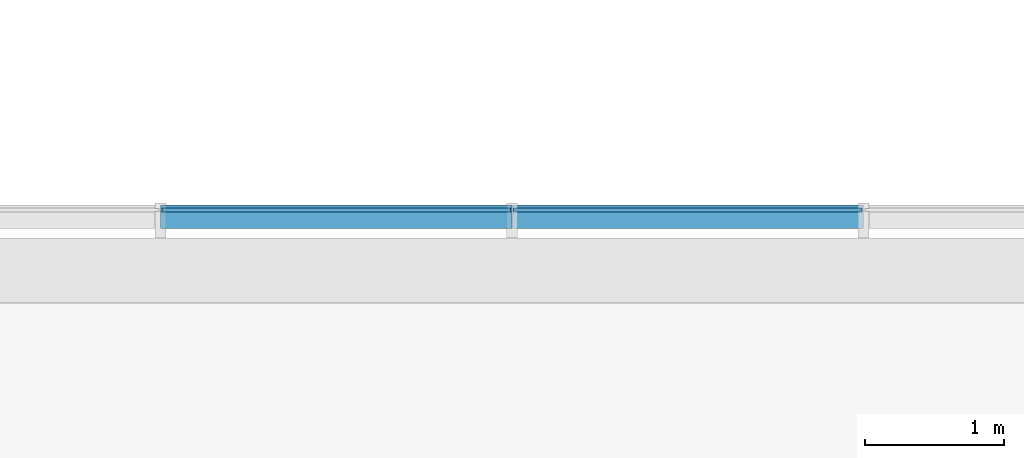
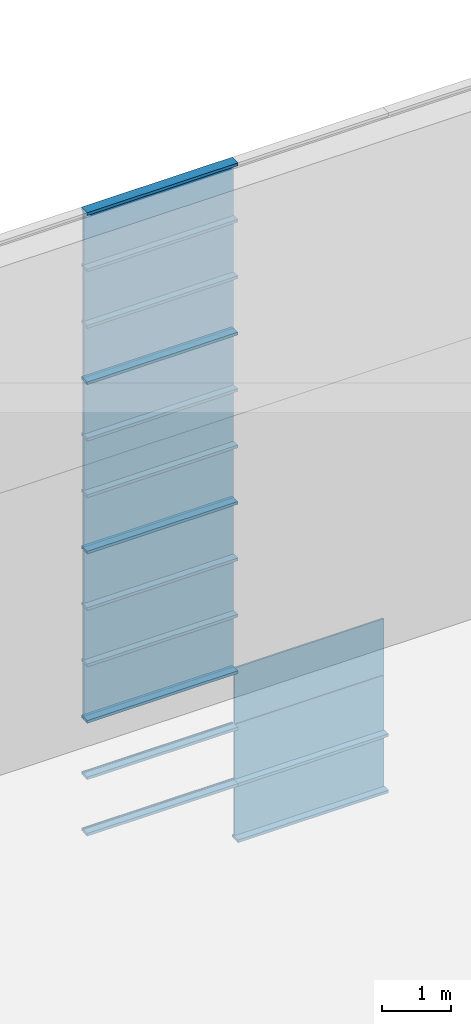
# One storey, part 62 of 105: 29 building element parts, 4 elements without a shape of their own.
"""IFC4 building model written with IfcOpenShell, lengths in millimetres."""

from ifc_helpers import new_model, entity, si_unit, converted_unit, derived_unit, direction, frame, origin_with_axes, place, context, subcontext, project, spatial, triangles, material, element, aggregate, save


model = new_model("IFC4")

# Units and contexts
model_context = context("Model", 3, precision=1e-05, world=origin_with_axes(), true_north=direction((0.0, 1.0)))
body_context = subcontext(model_context, "Body", "Model", "MODEL_VIEW")
ifc_project = project(units=[si_unit("LENGTHUNIT", "METRE", prefix="MILLI"), si_unit("AREAUNIT", "SQUARE_METRE"), si_unit("VOLUMEUNIT", "CUBIC_METRE"), converted_unit("PLANEANGLEUNIT", "DEGREE", entity("IfcLengthMeasure", 0.017453), si_unit("PLANEANGLEUNIT", "RADIAN"), dimensions=[0, 0, 0, 0, 0, 0, 0]), si_unit("SOLIDANGLEUNIT", "STERADIAN"), si_unit("MASSUNIT", "GRAM"), si_unit("TIMEUNIT", "SECOND"), si_unit("THERMODYNAMICTEMPERATUREUNIT", "DEGREE_CELSIUS"), si_unit("LUMINOUSINTENSITYUNIT", "LUMEN"), si_unit("POWERUNIT", "WATT"), derived_unit("THERMALTRANSMITTANCEUNIT", [(si_unit("POWERUNIT", "WATT"), 1), (si_unit("THERMODYNAMICTEMPERATUREUNIT", "KELVIN"), -1), (si_unit("AREAUNIT", "SQUARE_METRE"), -1)])], contexts=[model_context])

# Site, building, storey
site_placement = place(None, origin_with_axes())
site = spatial("IfcSite", under=ifc_project, at=site_placement, Name="Default Site", CompositionType="ELEMENT")
building_placement = place(site_placement, origin_with_axes())
building = spatial("IfcBuilding", under=site, at=building_placement, Name="Default Building", CompositionType="ELEMENT")
storey_placement = place(building_placement, origin_with_axes())
storey = spatial("IfcBuildingStorey", under=building, at=storey_placement, Name="OG - Story", CompositionType="ELEMENT", Elevation=0.0)

# Curtain wall, building element parts
curtain_wall_1_placement = place(storey_placement, origin_with_axes())
curtain_wall_1 = element("IfcCurtainWall", 1, at=curtain_wall_1_placement, inside=storey, Name="Fassade-004", PredefinedType="NOTDEFINED")
ifc_material_1 = material(Name="Normalglas")
building_element_part_1_placement = place(curtain_wall_1_placement, frame((33014.549222, -4389.262838, 0.0), z_axis=(0.0, 0.0, 1.0), x_axis=(1.0, 0.0, 0.0)))
building_element_part_1 = element("IfcBuildingElementPart", 2, at=building_element_part_1_placement, material=ifc_material_1, Name="Normalglas", PredefinedType="NOTDEFINED", context=body_context, shape_type="Tessellation", body=[
    triangles([(41674.211, -14.999, 995.0), (41674.211, 15.0, 995.0), (39167.895, 15.0, 995.0), (39167.895, -14.999, 995.0), (41674.211, -14.999, 5.0), (41674.211, 15.0, 5.0), (39167.895, 15.0, 5.0), (39167.895, -14.999, 5.0)], [[1, 2, 3], [1, 3, 4], [5, 6, 2], [5, 2, 1], [2, 6, 7], [2, 7, 3], [4, 3, 7], [4, 7, 8], [1, 4, 8], [1, 8, 5], [8, 7, 6], [8, 6, 5]], closed=False),
])
building_element_part_2_placement = place(curtain_wall_1_placement, frame((33014.549222, -4389.262838, 0.0), z_axis=(0.0, 0.0, 1.0), x_axis=(1.0, 0.0, 0.0)))
building_element_part_2 = element("IfcBuildingElementPart", 3, at=building_element_part_2_placement, material=ifc_material_1, Name="Normalglas", PredefinedType="NOTDEFINED", context=body_context, shape_type="Tessellation", body=[
    triangles([(41674.211, -14.999, 1995.0), (41674.211, 15.0, 1995.0), (39167.895, 15.0, 1995.0), (39167.895, -14.999, 1995.0), (41674.211, -14.999, 1005.0), (41674.211, 15.0, 1005.0), (39167.895, 15.0, 1005.0), (39167.895, -14.999, 1005.0)], [[1, 2, 3], [1, 3, 4], [5, 6, 2], [5, 2, 1], [2, 6, 7], [2, 7, 3], [4, 3, 7], [4, 7, 8], [1, 4, 8], [1, 8, 5], [8, 7, 6], [8, 6, 5]], closed=False),
])
building_element_part_3_placement = place(curtain_wall_1_placement, frame((33014.549222, -4389.262838, 0.0), z_axis=(0.0, 0.0, 1.0), x_axis=(1.0, 0.0, 0.0)))
building_element_part_3 = element("IfcBuildingElementPart", 4, at=building_element_part_3_placement, material=ifc_material_1, Name="Normalglas", PredefinedType="NOTDEFINED", context=body_context, shape_type="Tessellation", body=[
    triangles([(41674.211, -14.999, 2995.0), (41674.211, 15.0, 2995.0), (39167.895, 15.0, 2995.0), (39167.895, -14.999, 2995.0), (41674.211, -14.999, 2005.0), (41674.211, 15.0, 2005.0), (39167.895, 15.0, 2005.0), (39167.895, -14.999, 2005.0)], [[1, 2, 3], [1, 3, 4], [5, 6, 2], [5, 2, 1], [2, 6, 7], [2, 7, 3], [4, 3, 7], [4, 7, 8], [1, 4, 8], [1, 8, 5], [8, 7, 6], [8, 6, 5]], closed=False),
])
ifc_material_2 = material(Name="Blech")
building_element_part_4_placement = place(curtain_wall_1_placement, frame((33014.549222, -4389.262838, 0.0), z_axis=(0.0, 0.0, 1.0), x_axis=(1.0, 0.0, 0.0)))
building_element_part_4 = element("IfcBuildingElementPart", 5, at=building_element_part_4_placement, material=ifc_material_2, Name="Blech", PredefinedType="NOTDEFINED", context=body_context, shape_type="Tessellation", body=[
    triangles([(41684.211, 35.0, -24.999), (41684.211, 35.0, 25.0), (41684.211, 15.0, 25.0), (41684.211, 15.0, 5.0), (41684.211, -14.999, 5.0), (41684.211, -132.999, 25.0), (41684.211, -132.999, -24.999), (41684.211, -14.999, 25.0), (39157.895, -14.999, 5.0), (39157.895, -14.999, 25.0), (39157.895, -132.999, 25.0), (39157.895, -132.999, -24.999), (39157.895, 35.0, -24.999), (39157.895, 35.0, 25.0), (39157.895, 15.0, 25.0), (39157.895, 15.0, 5.0)], [[1, 2, 3], [1, 3, 4], [1, 4, 5], [1, 5, 6], [1, 6, 7], [8, 6, 5], [5, 9, 10], [5, 10, 8], [10, 11, 6], [10, 6, 8], [11, 12, 7], [11, 7, 6], [12, 13, 1], [12, 1, 7], [13, 14, 2], [13, 2, 1], [3, 2, 14], [3, 14, 15], [15, 16, 4], [15, 4, 3], [4, 16, 9], [4, 9, 5], [15, 16, 13], [13, 16, 9], [13, 9, 11], [11, 9, 10], [13, 11, 12], [15, 13, 14]], closed=False),
])
building_element_part_5_placement = place(curtain_wall_1_placement, frame((33014.549222, -4389.262838, 0.0), z_axis=(0.0, 0.0, 1.0), x_axis=(1.0, 0.0, 0.0)))
building_element_part_5 = element("IfcBuildingElementPart", 6, at=building_element_part_5_placement, material=ifc_material_2, Name="Blech", PredefinedType="NOTDEFINED", context=body_context, shape_type="Tessellation", body=[
    triangles([(39157.895, 35.0, 975.0), (39157.895, 15.0, 975.0), (39157.895, 35.0, 1025.0), (39157.895, 15.0, 995.0), (39157.895, 15.0, 1005.0), (39157.895, -14.999, 995.0), (39157.895, -14.999, 1005.0), (39157.895, -14.999, 1025.0), (39157.895, -14.999, 975.0), (39157.895, -132.999, 975.0), (39157.895, -132.999, 1025.0), (39157.895, 15.0, 1025.0), (36631.579, -14.999, 995.0), (36631.579, 15.0, 995.0), (36631.579, 15.0, 975.0), (36631.579, 35.0, 975.0), (36631.579, 35.0, 1025.0), (36631.579, 15.0, 1025.0), (36631.579, 15.0, 1005.0), (36631.579, -14.999, 1005.0), (36631.579, -14.999, 1025.0), (36631.579, -132.999, 1025.0), (36631.579, -132.999, 975.0), (36631.579, -14.999, 975.0)], [[1, 2, 3], [3, 2, 4], [3, 4, 5], [5, 4, 6], [5, 6, 7], [8, 9, 10], [8, 10, 11], [3, 5, 12], [6, 13, 14], [6, 14, 4], [4, 14, 15], [4, 15, 2], [15, 16, 1], [15, 1, 2], [1, 16, 17], [1, 17, 3], [18, 12, 3], [18, 3, 17], [12, 18, 19], [12, 19, 5], [7, 5, 19], [7, 19, 20], [8, 7, 20], [8, 20, 21], [8, 21, 22], [8, 22, 11], [11, 22, 23], [11, 23, 10], [9, 10, 23], [9, 23, 24], [9, 24, 13], [9, 13, 6], [17, 18, 16], [16, 18, 19], [16, 19, 14], [14, 19, 20], [14, 20, 13], [24, 21, 22], [24, 22, 23], [16, 14, 15]], closed=False),
])
building_element_part_6_placement = place(curtain_wall_1_placement, frame((33014.549222, -4389.262838, 0.0), z_axis=(0.0, 0.0, 1.0), x_axis=(1.0, 0.0, 0.0)))
building_element_part_6 = element("IfcBuildingElementPart", 7, at=building_element_part_6_placement, material=ifc_material_2, Name="Blech", PredefinedType="NOTDEFINED", context=body_context, shape_type="Tessellation", body=[
    triangles([(41684.211, 35.0, 975.0), (41684.211, 15.0, 975.0), (41684.211, 35.0, 1025.0), (41684.211, 15.0, 995.0), (41684.211, 15.0, 1005.0), (41684.211, -14.999, 995.0), (41684.211, -14.999, 1005.0), (41684.211, -14.999, 1025.0), (41684.211, -14.999, 975.0), (41684.211, -132.999, 975.0), (41684.211, -132.999, 1025.0), (41684.211, 15.0, 1025.0), (39157.895, -14.999, 995.0), (39157.895, 15.0, 995.0), (39157.895, 15.0, 975.0), (39157.895, 35.0, 975.0), (39157.895, 35.0, 1025.0), (39157.895, 15.0, 1025.0), (39157.895, 15.0, 1005.0), (39157.895, -14.999, 1005.0), (39157.895, -14.999, 1025.0), (39157.895, -132.999, 1025.0), (39157.895, -132.999, 975.0), (39157.895, -14.999, 975.0)], [[1, 2, 3], [3, 2, 4], [3, 4, 5], [5, 4, 6], [5, 6, 7], [8, 9, 10], [8, 10, 11], [3, 5, 12], [6, 13, 14], [6, 14, 4], [4, 14, 15], [4, 15, 2], [15, 16, 1], [15, 1, 2], [1, 16, 17], [1, 17, 3], [18, 12, 3], [18, 3, 17], [12, 18, 19], [12, 19, 5], [7, 5, 19], [7, 19, 20], [8, 7, 20], [8, 20, 21], [8, 21, 22], [8, 22, 11], [11, 22, 23], [11, 23, 10], [9, 10, 23], [9, 23, 24], [9, 24, 13], [9, 13, 6], [17, 18, 16], [16, 18, 19], [16, 19, 14], [14, 19, 20], [14, 20, 13], [24, 21, 22], [24, 22, 23], [16, 14, 15]], closed=False),
])
building_element_part_7_placement = place(curtain_wall_1_placement, frame((33014.549222, -4389.262838, 0.0), z_axis=(0.0, 0.0, 1.0), x_axis=(1.0, 0.0, 0.0)))
building_element_part_7 = element("IfcBuildingElementPart", 8, at=building_element_part_7_placement, material=ifc_material_2, Name="Blech", PredefinedType="NOTDEFINED", context=body_context, shape_type="Tessellation", body=[
    triangles([(39157.895, 35.0, 1975.0), (39157.895, 15.0, 1975.0), (39157.895, 35.0, 2025.0), (39157.895, 15.0, 1995.0), (39157.895, 15.0, 2005.0), (39157.895, -14.999, 1995.0), (39157.895, -14.999, 2005.0), (39157.895, -14.999, 2025.0), (39157.895, -14.999, 1975.0), (39157.895, -132.999, 1975.0), (39157.895, -132.999, 2025.0), (39157.895, 15.0, 2025.0), (36631.579, -14.999, 1995.0), (36631.579, 15.0, 1995.0), (36631.579, 15.0, 1975.0), (36631.579, 35.0, 1975.0), (36631.579, 35.0, 2025.0), (36631.579, 15.0, 2025.0), (36631.579, 15.0, 2005.0), (36631.579, -14.999, 2005.0), (36631.579, -14.999, 2025.0), (36631.579, -132.999, 2025.0), (36631.579, -132.999, 1975.0), (36631.579, -14.999, 1975.0)], [[1, 2, 3], [3, 2, 4], [3, 4, 5], [5, 4, 6], [5, 6, 7], [8, 9, 10], [8, 10, 11], [3, 5, 12], [6, 13, 14], [6, 14, 4], [4, 14, 15], [4, 15, 2], [15, 16, 1], [15, 1, 2], [1, 16, 17], [1, 17, 3], [18, 12, 3], [18, 3, 17], [12, 18, 19], [12, 19, 5], [7, 5, 19], [7, 19, 20], [8, 7, 20], [8, 20, 21], [8, 21, 22], [8, 22, 11], [11, 22, 23], [11, 23, 10], [9, 10, 23], [9, 23, 24], [9, 24, 13], [9, 13, 6], [17, 18, 16], [16, 18, 19], [16, 19, 14], [14, 19, 20], [14, 20, 13], [24, 21, 22], [24, 22, 23], [16, 14, 15]], closed=False),
])
building_element_part_8_placement = place(curtain_wall_1_placement, frame((33014.549222, -4389.262838, 0.0), z_axis=(0.0, 0.0, 1.0), x_axis=(1.0, 0.0, 0.0)))
building_element_part_8 = element("IfcBuildingElementPart", 9, at=building_element_part_8_placement, material=ifc_material_2, Name="Blech", PredefinedType="NOTDEFINED", context=body_context, shape_type="Tessellation", body=[
    triangles([(39157.895, 15.0, 2975.0), (39157.895, 15.0, 2995.0), (39157.895, 35.0, 3025.0), (39157.895, -14.999, 2995.0), (39157.895, -132.999, 2975.0), (39157.895, -14.999, 2975.0), (39157.895, -132.999, 3025.0), (39157.895, 35.0, 2975.0), (36631.579, -14.999, 2995.0), (36631.579, 15.0, 2995.0), (36631.579, 15.0, 2975.0), (36631.579, 35.0, 2975.0), (36631.579, 35.0, 3025.0), (36631.579, -132.999, 3025.0), (36631.579, -132.999, 2975.0), (36631.579, -14.999, 2975.0)], [[1, 2, 3], [3, 2, 4], [3, 4, 5], [5, 4, 6], [3, 5, 7], [1, 3, 8], [2, 4, 9], [2, 9, 10], [11, 1, 2], [11, 2, 10], [1, 11, 12], [1, 12, 8], [13, 3, 8], [13, 8, 12], [14, 7, 3], [14, 3, 13], [15, 5, 7], [15, 7, 14], [16, 6, 5], [16, 5, 15], [4, 6, 16], [4, 16, 9], [13, 12, 11], [13, 11, 10], [13, 10, 9], [13, 9, 15], [13, 15, 14], [16, 15, 9]], closed=False),
])
aggregate(curtain_wall_1, [building_element_part_1, building_element_part_2, building_element_part_3, building_element_part_4, building_element_part_5, building_element_part_6, building_element_part_7, building_element_part_8])

curtain_wall_2_placement = place(storey_placement, origin_with_axes())
curtain_wall_2 = element("IfcCurtainWall", 10, at=curtain_wall_2_placement, inside=storey, Name="Fassade-004", PredefinedType="NOTDEFINED")
building_element_part_9_placement = place(curtain_wall_2_placement, frame((33014.549222, -4389.262838, 3000.0), z_axis=(0.0, 0.0, 1.0), x_axis=(1.0, 0.0, 0.0)))
building_element_part_9 = element("IfcBuildingElementPart", 11, at=building_element_part_9_placement, material=ifc_material_1, Name="Normalglas", PredefinedType="NOTDEFINED", context=body_context, shape_type="Tessellation", body=[
    triangles([(39147.895, -14.999, 995.0), (39147.895, 15.0, 995.0), (36641.579, 15.0, 995.0), (36641.579, -14.999, 995.0), (39147.895, -14.999, 5.0), (39147.895, 15.0, 5.0), (36641.579, 15.0, 5.0), (36641.579, -14.999, 5.0)], [[1, 2, 3], [1, 3, 4], [5, 6, 2], [5, 2, 1], [2, 6, 7], [2, 7, 3], [4, 3, 7], [4, 7, 8], [1, 4, 8], [1, 8, 5], [8, 7, 6], [8, 6, 5]], closed=False),
])
building_element_part_10_placement = place(curtain_wall_2_placement, frame((33014.549222, -4389.262838, 3000.0), z_axis=(0.0, 0.0, 1.0), x_axis=(1.0, 0.0, 0.0)))
building_element_part_10 = element("IfcBuildingElementPart", 12, at=building_element_part_10_placement, material=ifc_material_1, Name="Normalglas", PredefinedType="NOTDEFINED", context=body_context, shape_type="Tessellation", body=[
    triangles([(39147.895, -14.999, 1995.0), (39147.895, 15.0, 1995.0), (36641.579, 15.0, 1995.0), (36641.579, -14.999, 1995.0), (39147.895, -14.999, 1005.0), (39147.895, 15.0, 1005.0), (36641.579, 15.0, 1005.0), (36641.579, -14.999, 1005.0)], [[1, 2, 3], [1, 3, 4], [5, 6, 2], [5, 2, 1], [2, 6, 7], [2, 7, 3], [4, 3, 7], [4, 7, 8], [1, 4, 8], [1, 8, 5], [8, 7, 6], [8, 6, 5]], closed=False),
])
building_element_part_11_placement = place(curtain_wall_2_placement, frame((33014.549222, -4389.262838, 3000.0), z_axis=(0.0, 0.0, 1.0), x_axis=(1.0, 0.0, 0.0)))
building_element_part_11 = element("IfcBuildingElementPart", 13, at=building_element_part_11_placement, material=ifc_material_1, Name="Normalglas", PredefinedType="NOTDEFINED", context=body_context, shape_type="Tessellation", body=[
    triangles([(39147.895, -14.999, 2995.0), (39147.895, 15.0, 2995.0), (36641.579, 15.0, 2995.0), (36641.579, -14.999, 2995.0), (39147.895, -14.999, 2005.0), (39147.895, 15.0, 2005.0), (36641.579, 15.0, 2005.0), (36641.579, -14.999, 2005.0)], [[1, 2, 3], [1, 3, 4], [5, 6, 2], [5, 2, 1], [2, 6, 7], [2, 7, 3], [4, 3, 7], [4, 7, 8], [1, 4, 8], [1, 8, 5], [8, 7, 6], [8, 6, 5]], closed=False),
])
building_element_part_12_placement = place(curtain_wall_2_placement, frame((33014.549222, -4389.262838, 3000.0), z_axis=(0.0, 0.0, 1.0), x_axis=(1.0, 0.0, 0.0)))
building_element_part_12 = element("IfcBuildingElementPart", 14, at=building_element_part_12_placement, material=ifc_material_2, Name="Blech", PredefinedType="NOTDEFINED", context=body_context, shape_type="Tessellation", body=[
    triangles([(39157.895, 35.0, -24.999), (39157.895, 35.0, 25.0), (39157.895, 15.0, 25.0), (39157.895, 15.0, 5.0), (39157.895, -14.999, 5.0), (39157.895, -132.999, 25.0), (39157.895, -132.999, -24.999), (39157.895, -14.999, 25.0), (36631.579, -14.999, 5.0), (36631.579, -14.999, 25.0), (36631.579, -132.999, 25.0), (36631.579, -132.999, -24.999), (36631.579, 35.0, -24.999), (36631.579, 35.0, 25.0), (36631.579, 15.0, 25.0), (36631.579, 15.0, 5.0)], [[1, 2, 3], [1, 3, 4], [1, 4, 5], [1, 5, 6], [1, 6, 7], [8, 6, 5], [5, 9, 10], [5, 10, 8], [10, 11, 6], [10, 6, 8], [11, 12, 7], [11, 7, 6], [12, 13, 1], [12, 1, 7], [13, 14, 2], [13, 2, 1], [3, 2, 14], [3, 14, 15], [15, 16, 4], [15, 4, 3], [4, 16, 9], [4, 9, 5], [15, 16, 13], [13, 16, 9], [13, 9, 11], [11, 9, 10], [13, 11, 12], [15, 13, 14]], closed=False),
])
building_element_part_13_placement = place(curtain_wall_2_placement, frame((33014.549222, -4389.262838, 3000.0), z_axis=(0.0, 0.0, 1.0), x_axis=(1.0, 0.0, 0.0)))
building_element_part_13 = element("IfcBuildingElementPart", 15, at=building_element_part_13_placement, material=ifc_material_2, Name="Blech", PredefinedType="NOTDEFINED", context=body_context, shape_type="Tessellation", body=[
    triangles([(39157.895, 35.0, 975.0), (39157.895, 15.0, 975.0), (39157.895, 35.0, 1025.0), (39157.895, 15.0, 995.0), (39157.895, 15.0, 1005.0), (39157.895, -14.999, 995.0), (39157.895, -14.999, 1005.0), (39157.895, -14.999, 1025.0), (39157.895, -14.999, 975.0), (39157.895, -132.999, 975.0), (39157.895, -132.999, 1025.0), (39157.895, 15.0, 1025.0), (36631.579, -14.999, 995.0), (36631.579, 15.0, 995.0), (36631.579, 15.0, 975.0), (36631.579, 35.0, 975.0), (36631.579, 35.0, 1025.0), (36631.579, 15.0, 1025.0), (36631.579, 15.0, 1005.0), (36631.579, -14.999, 1005.0), (36631.579, -14.999, 1025.0), (36631.579, -132.999, 1025.0), (36631.579, -132.999, 975.0), (36631.579, -14.999, 975.0)], [[1, 2, 3], [3, 2, 4], [3, 4, 5], [5, 4, 6], [5, 6, 7], [8, 9, 10], [8, 10, 11], [3, 5, 12], [6, 13, 14], [6, 14, 4], [4, 14, 15], [4, 15, 2], [15, 16, 1], [15, 1, 2], [1, 16, 17], [1, 17, 3], [18, 12, 3], [18, 3, 17], [12, 18, 19], [12, 19, 5], [7, 5, 19], [7, 19, 20], [8, 7, 20], [8, 20, 21], [8, 21, 22], [8, 22, 11], [11, 22, 23], [11, 23, 10], [9, 10, 23], [9, 23, 24], [9, 24, 13], [9, 13, 6], [17, 18, 16], [16, 18, 19], [16, 19, 14], [14, 19, 20], [14, 20, 13], [24, 21, 22], [24, 22, 23], [16, 14, 15]], closed=False),
])
building_element_part_14_placement = place(curtain_wall_2_placement, frame((33014.549222, -4389.262838, 3000.0), z_axis=(0.0, 0.0, 1.0), x_axis=(1.0, 0.0, 0.0)))
building_element_part_14 = element("IfcBuildingElementPart", 16, at=building_element_part_14_placement, material=ifc_material_2, Name="Blech", PredefinedType="NOTDEFINED", context=body_context, shape_type="Tessellation", body=[
    triangles([(39157.895, 35.0, 1975.0), (39157.895, 15.0, 1975.0), (39157.895, 35.0, 2025.0), (39157.895, 15.0, 1995.0), (39157.895, 15.0, 2005.0), (39157.895, -14.999, 1995.0), (39157.895, -14.999, 2005.0), (39157.895, -14.999, 2025.0), (39157.895, -14.999, 1975.0), (39157.895, -132.999, 1975.0), (39157.895, -132.999, 2025.0), (39157.895, 15.0, 2025.0), (36631.579, -14.999, 1995.0), (36631.579, 15.0, 1995.0), (36631.579, 15.0, 1975.0), (36631.579, 35.0, 1975.0), (36631.579, 35.0, 2025.0), (36631.579, 15.0, 2025.0), (36631.579, 15.0, 2005.0), (36631.579, -14.999, 2005.0), (36631.579, -14.999, 2025.0), (36631.579, -132.999, 2025.0), (36631.579, -132.999, 1975.0), (36631.579, -14.999, 1975.0)], [[1, 2, 3], [3, 2, 4], [3, 4, 5], [5, 4, 6], [5, 6, 7], [8, 9, 10], [8, 10, 11], [3, 5, 12], [6, 13, 14], [6, 14, 4], [4, 14, 15], [4, 15, 2], [15, 16, 1], [15, 1, 2], [1, 16, 17], [1, 17, 3], [18, 12, 3], [18, 3, 17], [12, 18, 19], [12, 19, 5], [7, 5, 19], [7, 19, 20], [8, 7, 20], [8, 20, 21], [8, 21, 22], [8, 22, 11], [11, 22, 23], [11, 23, 10], [9, 10, 23], [9, 23, 24], [9, 24, 13], [9, 13, 6], [17, 18, 16], [16, 18, 19], [16, 19, 14], [14, 19, 20], [14, 20, 13], [24, 21, 22], [24, 22, 23], [16, 14, 15]], closed=False),
])
building_element_part_15_placement = place(curtain_wall_2_placement, frame((33014.549222, -4389.262838, 3000.0), z_axis=(0.0, 0.0, 1.0), x_axis=(1.0, 0.0, 0.0)))
building_element_part_15 = element("IfcBuildingElementPart", 17, at=building_element_part_15_placement, material=ifc_material_2, Name="Blech", PredefinedType="NOTDEFINED", context=body_context, shape_type="Tessellation", body=[
    triangles([(39157.895, 15.0, 2975.0), (39157.895, 15.0, 2995.0), (39157.895, 35.0, 3025.0), (39157.895, -14.999, 2995.0), (39157.895, -132.999, 2975.0), (39157.895, -14.999, 2975.0), (39157.895, -132.999, 3025.0), (39157.895, 35.0, 2975.0), (36631.579, -14.999, 2995.0), (36631.579, 15.0, 2995.0), (36631.579, 15.0, 2975.0), (36631.579, 35.0, 2975.0), (36631.579, 35.0, 3025.0), (36631.579, -132.999, 3025.0), (36631.579, -132.999, 2975.0), (36631.579, -14.999, 2975.0)], [[1, 2, 3], [3, 2, 4], [3, 4, 5], [5, 4, 6], [3, 5, 7], [1, 3, 8], [2, 4, 9], [2, 9, 10], [11, 1, 2], [11, 2, 10], [1, 11, 12], [1, 12, 8], [13, 3, 8], [13, 8, 12], [14, 7, 3], [14, 3, 13], [15, 5, 7], [15, 7, 14], [16, 6, 5], [16, 5, 15], [4, 6, 16], [4, 16, 9], [13, 12, 11], [13, 11, 10], [13, 10, 9], [13, 9, 15], [13, 15, 14], [16, 15, 9]], closed=False),
])
aggregate(curtain_wall_2, [building_element_part_9, building_element_part_10, building_element_part_11, building_element_part_12, building_element_part_13, building_element_part_14, building_element_part_15])

curtain_wall_3_placement = place(storey_placement, origin_with_axes())
curtain_wall_3 = element("IfcCurtainWall", 18, at=curtain_wall_3_placement, inside=storey, Name="Fassade-004", PredefinedType="NOTDEFINED")
building_element_part_16_placement = place(curtain_wall_3_placement, frame((33014.549222, -4389.262838, 6000.0), z_axis=(0.0, 0.0, 1.0), x_axis=(1.0, 0.0, 0.0)))
building_element_part_16 = element("IfcBuildingElementPart", 19, at=building_element_part_16_placement, material=ifc_material_1, Name="Normalglas", PredefinedType="NOTDEFINED", context=body_context, shape_type="Tessellation", body=[
    triangles([(39147.895, -14.999, 995.0), (39147.895, 15.0, 995.0), (36641.579, 15.0, 995.0), (36641.579, -14.999, 995.0), (39147.895, -14.999, 5.0), (39147.895, 15.0, 5.0), (36641.579, 15.0, 5.0), (36641.579, -14.999, 5.0)], [[1, 2, 3], [1, 3, 4], [5, 6, 2], [5, 2, 1], [2, 6, 7], [2, 7, 3], [4, 3, 7], [4, 7, 8], [1, 4, 8], [1, 8, 5], [8, 7, 6], [8, 6, 5]], closed=False),
])
building_element_part_17_placement = place(curtain_wall_3_placement, frame((33014.549222, -4389.262838, 6000.0), z_axis=(0.0, 0.0, 1.0), x_axis=(1.0, 0.0, 0.0)))
building_element_part_17 = element("IfcBuildingElementPart", 20, at=building_element_part_17_placement, material=ifc_material_1, Name="Normalglas", PredefinedType="NOTDEFINED", context=body_context, shape_type="Tessellation", body=[
    triangles([(39147.895, -14.999, 1995.0), (39147.895, 15.0, 1995.0), (36641.579, 15.0, 1995.0), (36641.579, -14.999, 1995.0), (39147.895, -14.999, 1005.0), (39147.895, 15.0, 1005.0), (36641.579, 15.0, 1005.0), (36641.579, -14.999, 1005.0)], [[1, 2, 3], [1, 3, 4], [5, 6, 2], [5, 2, 1], [2, 6, 7], [2, 7, 3], [4, 3, 7], [4, 7, 8], [1, 4, 8], [1, 8, 5], [8, 7, 6], [8, 6, 5]], closed=False),
])
building_element_part_18_placement = place(curtain_wall_3_placement, frame((33014.549222, -4389.262838, 6000.0), z_axis=(0.0, 0.0, 1.0), x_axis=(1.0, 0.0, 0.0)))
building_element_part_18 = element("IfcBuildingElementPart", 21, at=building_element_part_18_placement, material=ifc_material_1, Name="Normalglas", PredefinedType="NOTDEFINED", context=body_context, shape_type="Tessellation", body=[
    triangles([(39147.895, -14.999, 2995.0), (39147.895, 15.0, 2995.0), (36641.579, 15.0, 2995.0), (36641.579, -14.999, 2995.0), (39147.895, -14.999, 2005.0), (39147.895, 15.0, 2005.0), (36641.579, 15.0, 2005.0), (36641.579, -14.999, 2005.0)], [[1, 2, 3], [1, 3, 4], [5, 6, 2], [5, 2, 1], [2, 6, 7], [2, 7, 3], [4, 3, 7], [4, 7, 8], [1, 4, 8], [1, 8, 5], [8, 7, 6], [8, 6, 5]], closed=False),
])
building_element_part_19_placement = place(curtain_wall_3_placement, frame((33014.549222, -4389.262838, 6000.0), z_axis=(0.0, 0.0, 1.0), x_axis=(1.0, 0.0, 0.0)))
building_element_part_19 = element("IfcBuildingElementPart", 22, at=building_element_part_19_placement, material=ifc_material_2, Name="Blech", PredefinedType="NOTDEFINED", context=body_context, shape_type="Tessellation", body=[
    triangles([(39157.895, 35.0, -24.999), (39157.895, 35.0, 25.0), (39157.895, 15.0, 25.0), (39157.895, 15.0, 5.0), (39157.895, -14.999, 5.0), (39157.895, -132.999, 25.0), (39157.895, -132.999, -24.999), (39157.895, -14.999, 25.0), (36631.579, -14.999, 5.0), (36631.579, -14.999, 25.0), (36631.579, -132.999, 25.0), (36631.579, -132.999, -24.999), (36631.579, 35.0, -24.999), (36631.579, 35.0, 25.0), (36631.579, 15.0, 25.0), (36631.579, 15.0, 5.0)], [[1, 2, 3], [1, 3, 4], [1, 4, 5], [1, 5, 6], [1, 6, 7], [8, 6, 5], [5, 9, 10], [5, 10, 8], [10, 11, 6], [10, 6, 8], [11, 12, 7], [11, 7, 6], [12, 13, 1], [12, 1, 7], [13, 14, 2], [13, 2, 1], [3, 2, 14], [3, 14, 15], [15, 16, 4], [15, 4, 3], [4, 16, 9], [4, 9, 5], [15, 16, 13], [13, 16, 9], [13, 9, 11], [11, 9, 10], [13, 11, 12], [15, 13, 14]], closed=False),
])
building_element_part_20_placement = place(curtain_wall_3_placement, frame((33014.549222, -4389.262838, 6000.0), z_axis=(0.0, 0.0, 1.0), x_axis=(1.0, 0.0, 0.0)))
building_element_part_20 = element("IfcBuildingElementPart", 23, at=building_element_part_20_placement, material=ifc_material_2, Name="Blech", PredefinedType="NOTDEFINED", context=body_context, shape_type="Tessellation", body=[
    triangles([(39157.895, 35.0, 975.0), (39157.895, 15.0, 975.0), (39157.895, 35.0, 1025.0), (39157.895, 15.0, 995.0), (39157.895, 15.0, 1005.0), (39157.895, -14.999, 995.0), (39157.895, -14.999, 1005.0), (39157.895, -14.999, 1025.0), (39157.895, -14.999, 975.0), (39157.895, -132.999, 975.0), (39157.895, -132.999, 1025.0), (39157.895, 15.0, 1025.0), (36631.579, -14.999, 995.0), (36631.579, 15.0, 995.0), (36631.579, 15.0, 975.0), (36631.579, 35.0, 975.0), (36631.579, 35.0, 1025.0), (36631.579, 15.0, 1025.0), (36631.579, 15.0, 1005.0), (36631.579, -14.999, 1005.0), (36631.579, -14.999, 1025.0), (36631.579, -132.999, 1025.0), (36631.579, -132.999, 975.0), (36631.579, -14.999, 975.0)], [[1, 2, 3], [3, 2, 4], [3, 4, 5], [5, 4, 6], [5, 6, 7], [8, 9, 10], [8, 10, 11], [3, 5, 12], [6, 13, 14], [6, 14, 4], [4, 14, 15], [4, 15, 2], [15, 16, 1], [15, 1, 2], [1, 16, 17], [1, 17, 3], [18, 12, 3], [18, 3, 17], [12, 18, 19], [12, 19, 5], [7, 5, 19], [7, 19, 20], [8, 7, 20], [8, 20, 21], [8, 21, 22], [8, 22, 11], [11, 22, 23], [11, 23, 10], [9, 10, 23], [9, 23, 24], [9, 24, 13], [9, 13, 6], [17, 18, 16], [16, 18, 19], [16, 19, 14], [14, 19, 20], [14, 20, 13], [24, 21, 22], [24, 22, 23], [16, 14, 15]], closed=False),
])
building_element_part_21_placement = place(curtain_wall_3_placement, frame((33014.549222, -4389.262838, 6000.0), z_axis=(0.0, 0.0, 1.0), x_axis=(1.0, 0.0, 0.0)))
building_element_part_21 = element("IfcBuildingElementPart", 24, at=building_element_part_21_placement, material=ifc_material_2, Name="Blech", PredefinedType="NOTDEFINED", context=body_context, shape_type="Tessellation", body=[
    triangles([(39157.895, 35.0, 1975.0), (39157.895, 15.0, 1975.0), (39157.895, 35.0, 2025.0), (39157.895, 15.0, 1995.0), (39157.895, 15.0, 2005.0), (39157.895, -14.999, 1995.0), (39157.895, -14.999, 2005.0), (39157.895, -14.999, 2025.0), (39157.895, -14.999, 1975.0), (39157.895, -132.999, 1975.0), (39157.895, -132.999, 2025.0), (39157.895, 15.0, 2025.0), (36631.579, -14.999, 1995.0), (36631.579, 15.0, 1995.0), (36631.579, 15.0, 1975.0), (36631.579, 35.0, 1975.0), (36631.579, 35.0, 2025.0), (36631.579, 15.0, 2025.0), (36631.579, 15.0, 2005.0), (36631.579, -14.999, 2005.0), (36631.579, -14.999, 2025.0), (36631.579, -132.999, 2025.0), (36631.579, -132.999, 1975.0), (36631.579, -14.999, 1975.0)], [[1, 2, 3], [3, 2, 4], [3, 4, 5], [5, 4, 6], [5, 6, 7], [8, 9, 10], [8, 10, 11], [3, 5, 12], [6, 13, 14], [6, 14, 4], [4, 14, 15], [4, 15, 2], [15, 16, 1], [15, 1, 2], [1, 16, 17], [1, 17, 3], [18, 12, 3], [18, 3, 17], [12, 18, 19], [12, 19, 5], [7, 5, 19], [7, 19, 20], [8, 7, 20], [8, 20, 21], [8, 21, 22], [8, 22, 11], [11, 22, 23], [11, 23, 10], [9, 10, 23], [9, 23, 24], [9, 24, 13], [9, 13, 6], [17, 18, 16], [16, 18, 19], [16, 19, 14], [14, 19, 20], [14, 20, 13], [24, 21, 22], [24, 22, 23], [16, 14, 15]], closed=False),
])
building_element_part_22_placement = place(curtain_wall_3_placement, frame((33014.549222, -4389.262838, 6000.0), z_axis=(0.0, 0.0, 1.0), x_axis=(1.0, 0.0, 0.0)))
building_element_part_22 = element("IfcBuildingElementPart", 25, at=building_element_part_22_placement, material=ifc_material_2, Name="Blech", PredefinedType="NOTDEFINED", context=body_context, shape_type="Tessellation", body=[
    triangles([(39157.895, 15.0, 2975.0), (39157.895, 15.0, 2995.0), (39157.895, 35.0, 3025.0), (39157.895, -14.999, 2995.0), (39157.895, -132.999, 2975.0), (39157.895, -14.999, 2975.0), (39157.895, -132.999, 3025.0), (39157.895, 35.0, 2975.0), (36631.579, -14.999, 2995.0), (36631.579, 15.0, 2995.0), (36631.579, 15.0, 2975.0), (36631.579, 35.0, 2975.0), (36631.579, 35.0, 3025.0), (36631.579, -132.999, 3025.0), (36631.579, -132.999, 2975.0), (36631.579, -14.999, 2975.0)], [[1, 2, 3], [3, 2, 4], [3, 4, 5], [5, 4, 6], [3, 5, 7], [1, 3, 8], [2, 4, 9], [2, 9, 10], [11, 1, 2], [11, 2, 10], [1, 11, 12], [1, 12, 8], [13, 3, 8], [13, 8, 12], [14, 7, 3], [14, 3, 13], [15, 5, 7], [15, 7, 14], [16, 6, 5], [16, 5, 15], [4, 6, 16], [4, 16, 9], [13, 12, 11], [13, 11, 10], [13, 10, 9], [13, 9, 15], [13, 15, 14], [16, 15, 9]], closed=False),
])
aggregate(curtain_wall_3, [building_element_part_16, building_element_part_17, building_element_part_18, building_element_part_19, building_element_part_20, building_element_part_21, building_element_part_22])

curtain_wall_4_placement = place(storey_placement, origin_with_axes())
curtain_wall_4 = element("IfcCurtainWall", 26, at=curtain_wall_4_placement, inside=storey, Name="Fassade-004", PredefinedType="NOTDEFINED")
building_element_part_23_placement = place(curtain_wall_4_placement, frame((33014.549222, -4389.262838, 9000.0), z_axis=(0.0, 0.0, 1.0), x_axis=(1.0, 0.0, 0.0)))
building_element_part_23 = element("IfcBuildingElementPart", 27, at=building_element_part_23_placement, material=ifc_material_1, Name="Normalglas", PredefinedType="NOTDEFINED", context=body_context, shape_type="Tessellation", body=[
    triangles([(39147.895, -14.999, 995.0), (39147.895, 15.0, 995.0), (36641.579, 15.0, 995.0), (36641.579, -14.999, 995.0), (39147.895, -14.999, 5.0), (39147.895, 15.0, 5.0), (36641.579, 15.0, 5.0), (36641.579, -14.999, 5.0)], [[1, 2, 3], [1, 3, 4], [5, 6, 2], [5, 2, 1], [2, 6, 7], [2, 7, 3], [4, 3, 7], [4, 7, 8], [1, 4, 8], [1, 8, 5], [8, 7, 6], [8, 6, 5]], closed=False),
])
building_element_part_24_placement = place(curtain_wall_4_placement, frame((33014.549222, -4389.262838, 9000.0), z_axis=(0.0, 0.0, 1.0), x_axis=(1.0, 0.0, 0.0)))
building_element_part_24 = element("IfcBuildingElementPart", 28, at=building_element_part_24_placement, material=ifc_material_1, Name="Normalglas", PredefinedType="NOTDEFINED", context=body_context, shape_type="Tessellation", body=[
    triangles([(39147.895, -14.999, 1995.0), (39147.895, 15.0, 1995.0), (36641.579, 15.0, 1995.0), (36641.579, -14.999, 1995.0), (39147.895, -14.999, 1005.0), (39147.895, 15.0, 1005.0), (36641.579, 15.0, 1005.0), (36641.579, -14.999, 1005.0)], [[1, 2, 3], [1, 3, 4], [5, 6, 2], [5, 2, 1], [2, 6, 7], [2, 7, 3], [4, 3, 7], [4, 7, 8], [1, 4, 8], [1, 8, 5], [8, 7, 6], [8, 6, 5]], closed=False),
])
building_element_part_25_placement = place(curtain_wall_4_placement, frame((33014.549222, -4389.262838, 9000.0), z_axis=(0.0, 0.0, 1.0), x_axis=(1.0, 0.0, 0.0)))
building_element_part_25 = element("IfcBuildingElementPart", 29, at=building_element_part_25_placement, material=ifc_material_1, Name="Normalglas", PredefinedType="NOTDEFINED", context=body_context, shape_type="Tessellation", body=[
    triangles([(39147.895, -14.999, 2995.0), (39147.895, 15.0, 2995.0), (36641.579, 15.0, 2995.0), (36641.579, -14.999, 2995.0), (39147.895, -14.999, 2005.0), (39147.895, 15.0, 2005.0), (36641.579, 15.0, 2005.0), (36641.579, -14.999, 2005.0)], [[1, 2, 3], [1, 3, 4], [5, 6, 2], [5, 2, 1], [2, 6, 7], [2, 7, 3], [4, 3, 7], [4, 7, 8], [1, 4, 8], [1, 8, 5], [8, 7, 6], [8, 6, 5]], closed=False),
])
building_element_part_26_placement = place(curtain_wall_4_placement, frame((33014.549222, -4389.262838, 9000.0), z_axis=(0.0, 0.0, 1.0), x_axis=(1.0, 0.0, 0.0)))
building_element_part_26 = element("IfcBuildingElementPart", 30, at=building_element_part_26_placement, material=ifc_material_2, Name="Blech", PredefinedType="NOTDEFINED", context=body_context, shape_type="Tessellation", body=[
    triangles([(39157.895, 35.0, -24.999), (39157.895, 35.0, 25.0), (39157.895, 15.0, 25.0), (39157.895, 15.0, 5.0), (39157.895, -14.999, 5.0), (39157.895, -132.999, 25.0), (39157.895, -132.999, -24.999), (39157.895, -14.999, 25.0), (36631.579, -14.999, 5.0), (36631.579, -14.999, 25.0), (36631.579, -132.999, 25.0), (36631.579, -132.999, -24.999), (36631.579, 35.0, -24.999), (36631.579, 35.0, 25.0), (36631.579, 15.0, 25.0), (36631.579, 15.0, 5.0)], [[1, 2, 3], [1, 3, 4], [1, 4, 5], [1, 5, 6], [1, 6, 7], [8, 6, 5], [5, 9, 10], [5, 10, 8], [10, 11, 6], [10, 6, 8], [11, 12, 7], [11, 7, 6], [12, 13, 1], [12, 1, 7], [13, 14, 2], [13, 2, 1], [3, 2, 14], [3, 14, 15], [15, 16, 4], [15, 4, 3], [4, 16, 9], [4, 9, 5], [15, 16, 13], [13, 16, 9], [13, 9, 11], [11, 9, 10], [13, 11, 12], [15, 13, 14]], closed=False),
])
building_element_part_27_placement = place(curtain_wall_4_placement, frame((33014.549222, -4389.262838, 9000.0), z_axis=(0.0, 0.0, 1.0), x_axis=(1.0, 0.0, 0.0)))
building_element_part_27 = element("IfcBuildingElementPart", 31, at=building_element_part_27_placement, material=ifc_material_2, Name="Blech", PredefinedType="NOTDEFINED", context=body_context, shape_type="Tessellation", body=[
    triangles([(39157.895, 35.0, 975.0), (39157.895, 15.0, 975.0), (39157.895, 35.0, 1025.0), (39157.895, 15.0, 995.0), (39157.895, 15.0, 1005.0), (39157.895, -14.999, 995.0), (39157.895, -14.999, 1005.0), (39157.895, -14.999, 1025.0), (39157.895, -14.999, 975.0), (39157.895, -132.999, 975.0), (39157.895, -132.999, 1025.0), (39157.895, 15.0, 1025.0), (36631.579, -14.999, 995.0), (36631.579, 15.0, 995.0), (36631.579, 15.0, 975.0), (36631.579, 35.0, 975.0), (36631.579, 35.0, 1025.0), (36631.579, 15.0, 1025.0), (36631.579, 15.0, 1005.0), (36631.579, -14.999, 1005.0), (36631.579, -14.999, 1025.0), (36631.579, -132.999, 1025.0), (36631.579, -132.999, 975.0), (36631.579, -14.999, 975.0)], [[1, 2, 3], [3, 2, 4], [3, 4, 5], [5, 4, 6], [5, 6, 7], [8, 9, 10], [8, 10, 11], [3, 5, 12], [6, 13, 14], [6, 14, 4], [4, 14, 15], [4, 15, 2], [15, 16, 1], [15, 1, 2], [1, 16, 17], [1, 17, 3], [18, 12, 3], [18, 3, 17], [12, 18, 19], [12, 19, 5], [7, 5, 19], [7, 19, 20], [8, 7, 20], [8, 20, 21], [8, 21, 22], [8, 22, 11], [11, 22, 23], [11, 23, 10], [9, 10, 23], [9, 23, 24], [9, 24, 13], [9, 13, 6], [17, 18, 16], [16, 18, 19], [16, 19, 14], [14, 19, 20], [14, 20, 13], [24, 21, 22], [24, 22, 23], [16, 14, 15]], closed=False),
])
building_element_part_28_placement = place(curtain_wall_4_placement, frame((33014.549222, -4389.262838, 9000.0), z_axis=(0.0, 0.0, 1.0), x_axis=(1.0, 0.0, 0.0)))
building_element_part_28 = element("IfcBuildingElementPart", 32, at=building_element_part_28_placement, material=ifc_material_2, Name="Blech", PredefinedType="NOTDEFINED", context=body_context, shape_type="Tessellation", body=[
    triangles([(39157.895, 35.0, 1975.0), (39157.895, 15.0, 1975.0), (39157.895, 35.0, 2025.0), (39157.895, 15.0, 1995.0), (39157.895, 15.0, 2005.0), (39157.895, -14.999, 1995.0), (39157.895, -14.999, 2005.0), (39157.895, -14.999, 2025.0), (39157.895, -14.999, 1975.0), (39157.895, -132.999, 1975.0), (39157.895, -132.999, 2025.0), (39157.895, 15.0, 2025.0), (36631.579, -14.999, 1995.0), (36631.579, 15.0, 1995.0), (36631.579, 15.0, 1975.0), (36631.579, 35.0, 1975.0), (36631.579, 35.0, 2025.0), (36631.579, 15.0, 2025.0), (36631.579, 15.0, 2005.0), (36631.579, -14.999, 2005.0), (36631.579, -14.999, 2025.0), (36631.579, -132.999, 2025.0), (36631.579, -132.999, 1975.0), (36631.579, -14.999, 1975.0)], [[1, 2, 3], [3, 2, 4], [3, 4, 5], [5, 4, 6], [5, 6, 7], [8, 9, 10], [8, 10, 11], [3, 5, 12], [6, 13, 14], [6, 14, 4], [4, 14, 15], [4, 15, 2], [15, 16, 1], [15, 1, 2], [1, 16, 17], [1, 17, 3], [18, 12, 3], [18, 3, 17], [12, 18, 19], [12, 19, 5], [7, 5, 19], [7, 19, 20], [8, 7, 20], [8, 20, 21], [8, 21, 22], [8, 22, 11], [11, 22, 23], [11, 23, 10], [9, 10, 23], [9, 23, 24], [9, 24, 13], [9, 13, 6], [17, 18, 16], [16, 18, 19], [16, 19, 14], [14, 19, 20], [14, 20, 13], [24, 21, 22], [24, 22, 23], [16, 14, 15]], closed=False),
])
building_element_part_29_placement = place(curtain_wall_4_placement, frame((33014.549222, -4389.262838, 9000.0), z_axis=(0.0, 0.0, 1.0), x_axis=(1.0, 0.0, 0.0)))
building_element_part_29 = element("IfcBuildingElementPart", 33, at=building_element_part_29_placement, material=ifc_material_2, Name="Blech", PredefinedType="NOTDEFINED", context=body_context, shape_type="Tessellation", body=[
    triangles([(39157.895, 15.0, 2975.0), (39157.895, 15.0, 2995.0), (39157.895, 35.0, 3025.0), (39157.895, -14.999, 2995.0), (39157.895, -132.999, 2975.0), (39157.895, -14.999, 2975.0), (39157.895, -132.999, 3025.0), (39157.895, 35.0, 2975.0), (36631.579, -14.999, 2995.0), (36631.579, 15.0, 2995.0), (36631.579, 15.0, 2975.0), (36631.579, 35.0, 2975.0), (36631.579, 35.0, 3025.0), (36631.579, -132.999, 3025.0), (36631.579, -132.999, 2975.0), (36631.579, -14.999, 2975.0)], [[1, 2, 3], [3, 2, 4], [3, 4, 5], [5, 4, 6], [3, 5, 7], [1, 3, 8], [2, 4, 9], [2, 9, 10], [11, 1, 2], [11, 2, 10], [1, 11, 12], [1, 12, 8], [13, 3, 8], [13, 8, 12], [14, 7, 3], [14, 3, 13], [15, 5, 7], [15, 7, 14], [16, 6, 5], [16, 5, 15], [4, 6, 16], [4, 16, 9], [13, 12, 11], [13, 11, 10], [13, 10, 9], [13, 9, 15], [13, 15, 14], [16, 15, 9]], closed=False),
])
aggregate(curtain_wall_4, [building_element_part_23, building_element_part_24, building_element_part_25, building_element_part_26, building_element_part_27, building_element_part_28, building_element_part_29])

save(model, "model.ifc")
